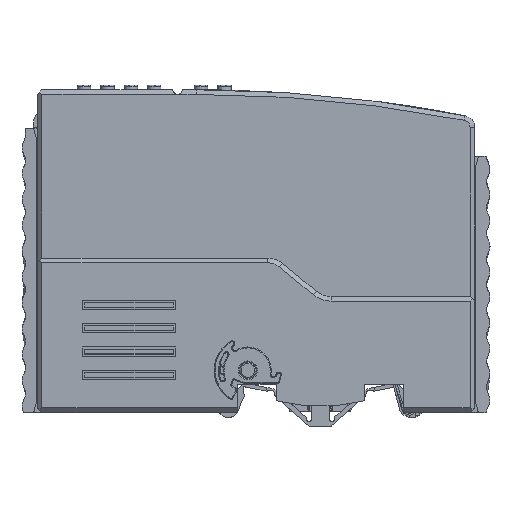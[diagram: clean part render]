
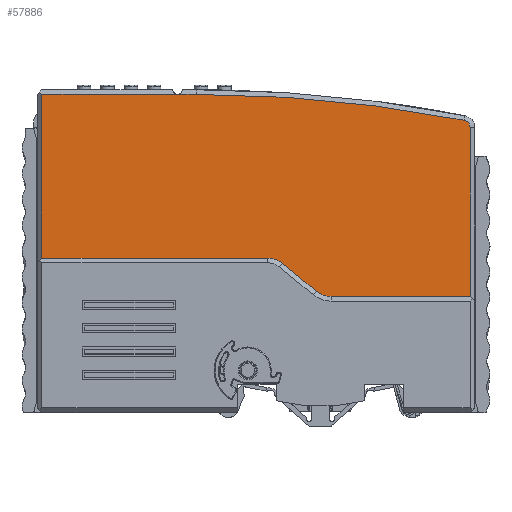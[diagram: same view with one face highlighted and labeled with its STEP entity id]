
A CAD part, top view. The second image highlights one B-rep face of the part: STEP entity #57886.
In plain terms, the highlighted planar face has unit normal (0, 0, 1).
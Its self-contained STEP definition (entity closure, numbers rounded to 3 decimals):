
#3871=DIRECTION('',(0.,1.,0.));
#3872=VECTOR('',#3871,35.);
#3873=CARTESIAN_POINT('',(1.,33.,-20.));
#3874=LINE('',#3873,#3872);
#3883=DIRECTION('',(-1.,0.,0.));
#3884=VECTOR('',#3883,16.9);
#3885=CARTESIAN_POINT('',(48.5,31.4,-20.));
#3886=LINE('',#3885,#3884);
#3887=DIRECTION('',(1.,0.,0.));
#3888=VECTOR('',#3887,2.4);
#3889=CARTESIAN_POINT('',(29.2,33.,-20.));
#3890=LINE('',#3889,#3888);
#3891=DIRECTION('',(-1.,0.,0.));
#3892=VECTOR('',#3891,16.9);
#3893=CARTESIAN_POINT('',(29.2,31.4,-20.));
#3894=LINE('',#3893,#3892);
#3895=DIRECTION('',(1.,0.,0.));
#3896=VECTOR('',#3895,11.3);
#3897=CARTESIAN_POINT('',(1.,33.,-20.));
#3898=LINE('',#3897,#3896);
#3899=CARTESIAN_POINT('',(34.,-231.,-20.));
#3900=DIRECTION('',(0.,0.,1.));
#3901=DIRECTION('',(0.191,0.982,0.));
#3902=AXIS2_PLACEMENT_3D('',#3899,#3900,#3901);
#3904=CARTESIAN_POINT('',(90.9,60.906,-20.));
#3905=DIRECTION('',(0.,0.,1.));
#3906=DIRECTION('',(1.,0.,0.));
#3907=AXIS2_PLACEMENT_3D('',#3904,#3905,#3906);
#3909=CARTESIAN_POINT('',(62.788,29.8,-20.));
#3910=DIRECTION('',(0.,0.,1.));
#3911=DIRECTION('',(-0.634,-0.773,0.));
#3912=AXIS2_PLACEMENT_3D('',#3909,#3910,#3911);
#3914=DIRECTION('',(0.773,-0.634,0.));
#3915=VECTOR('',#3914,9.356);
#3916=CARTESIAN_POINT('',(52.383,31.866,-20.));
#3917=LINE('',#3916,#3915);
#3918=CARTESIAN_POINT('',(49.212,28.,-20.));
#3919=DIRECTION('',(0.,0.,-1.));
#3920=DIRECTION('',(0.,1.,0.));
#3921=AXIS2_PLACEMENT_3D('',#3918,#3919,#3920);
#3923=DIRECTION('',(1.,0.,0.));
#3924=VECTOR('',#3923,0.712);
#3925=CARTESIAN_POINT('',(48.5,33.,-20.));
#3926=LINE('',#3925,#3924);
#3927=DIRECTION('',(1.,0.,0.));
#3928=VECTOR('',#3927,1.5);
#3929=CARTESIAN_POINT('',(39.3,32.3,-20.));
#3930=LINE('',#3929,#3928);
#3935=DIRECTION('',(0.,-1.,0.));
#3936=VECTOR('',#3935,0.1);
#3937=CARTESIAN_POINT('',(39.3,32.4,-20.));
#3938=LINE('',#3937,#3936);
#3971=DIRECTION('',(0.,-1.,0.));
#3972=VECTOR('',#3971,1.6);
#3973=CARTESIAN_POINT('',(48.5,33.,-20.));
#3974=LINE('',#3973,#3972);
#4055=DIRECTION('',(1.,0.,0.));
#4056=VECTOR('',#4055,1.5);
#4057=CARTESIAN_POINT('',(39.3,32.4,-20.));
#4058=LINE('',#4057,#4056);
#4083=DIRECTION('',(0.,1.,0.));
#4084=VECTOR('',#4083,0.1);
#4085=CARTESIAN_POINT('',(40.8,32.3,-20.));
#4086=LINE('',#4085,#4084);
#4183=DIRECTION('',(0.,-1.,0.));
#4184=VECTOR('',#4183,1.6);
#4185=CARTESIAN_POINT('',(12.3,33.,-20.));
#4186=LINE('',#4185,#4184);
#4203=DIRECTION('',(0.,-1.,0.));
#4204=VECTOR('',#4203,1.6);
#4205=CARTESIAN_POINT('',(29.2,33.,-20.));
#4206=LINE('',#4205,#4204);
#4219=DIRECTION('',(0.,1.,0.));
#4220=VECTOR('',#4219,1.6);
#4221=CARTESIAN_POINT('',(31.6,31.4,-20.));
#4222=LINE('',#4221,#4220);
#4408=DIRECTION('',(1.,0.,0.));
#4409=VECTOR('',#4408,29.712);
#4410=CARTESIAN_POINT('',(62.788,24.8,-20.));
#4411=LINE('',#4410,#4409);
#4464=DIRECTION('',(0.,-1.,0.));
#4465=VECTOR('',#4464,36.106);
#4466=CARTESIAN_POINT('',(92.5,60.906,-20.));
#4467=LINE('',#4466,#4465);
#26304=DIRECTION('',(1.,0.,0.));
#26305=VECTOR('',#26304,4.);
#26306=CARTESIAN_POINT('',(30.,68.,-20.));
#26307=LINE('',#26306,#26305);
#27518=DIRECTION('',(1.,0.,0.));
#27519=VECTOR('',#27518,29.);
#27520=CARTESIAN_POINT('',(1.,68.,-20.));
#27521=LINE('',#27520,#27519);
#41449=CARTESIAN_POINT('',(1.,33.,-20.));
#41450=VERTEX_POINT('',#41449);
#41795=CARTESIAN_POINT('',(49.212,33.,-20.));
#41796=VERTEX_POINT('',#41795);
#41797=CARTESIAN_POINT('',(52.383,31.866,-20.));
#41798=VERTEX_POINT('',#41797);
#41799=CARTESIAN_POINT('',(48.5,33.,-20.));
#41800=VERTEX_POINT('',#41799);
#41805=CARTESIAN_POINT('',(31.6,33.,-20.));
#41806=VERTEX_POINT('',#41805);
#41807=CARTESIAN_POINT('',(29.2,33.,-20.));
#41808=VERTEX_POINT('',#41807);
#41813=CARTESIAN_POINT('',(12.3,33.,-20.));
#41814=VERTEX_POINT('',#41813);
#41815=CARTESIAN_POINT('',(30.,68.,-20.));
#41816=CARTESIAN_POINT('',(34.,68.,-20.));
#41817=VERTEX_POINT('',#41815);
#41818=VERTEX_POINT('',#41816);
#41819=CARTESIAN_POINT('',(91.206,62.477,-20.));
#41820=VERTEX_POINT('',#41819);
#41821=CARTESIAN_POINT('',(92.5,60.906,-20.));
#41822=VERTEX_POINT('',#41821);
#41823=CARTESIAN_POINT('',(92.5,24.8,
-20.));
#41824=VERTEX_POINT('',#41823);
#41825=CARTESIAN_POINT('',(62.788,24.8,-20.));
#41826=VERTEX_POINT('',#41825);
#41827=CARTESIAN_POINT('',(59.617,25.934,-20.));
#41828=VERTEX_POINT('',#41827);
#41829=CARTESIAN_POINT('',(1.,68.,-20.));
#41830=VERTEX_POINT('',#41829);
#41831=CARTESIAN_POINT('',(39.3,32.3,-20.));
#41832=CARTESIAN_POINT('',(40.8,32.3,-20.));
#41833=VERTEX_POINT('',#41831);
#41834=VERTEX_POINT('',#41832);
#41835=CARTESIAN_POINT('',(40.8,32.4,-20.));
#41836=VERTEX_POINT('',#41835);
#41837=CARTESIAN_POINT('',(39.3,32.4,-20.));
#41838=VERTEX_POINT('',#41837);
#49755=CARTESIAN_POINT('',(48.5,31.4,-20.));
#49756=CARTESIAN_POINT('',(31.6,31.4,-20.));
#49757=VERTEX_POINT('',#49755);
#49758=VERTEX_POINT('',#49756);
#49759=CARTESIAN_POINT('',(29.2,31.4,-20.));
#49760=CARTESIAN_POINT('',(12.3,31.4,-20.));
#49761=VERTEX_POINT('',#49759);
#49762=VERTEX_POINT('',#49760);
#57832=CARTESIAN_POINT('',(46.75,46.4,-20.));
#57833=DIRECTION('',(0.,0.,1.));
#57834=DIRECTION('',(1.,0.,0.));
#57835=AXIS2_PLACEMENT_3D('',#57832,#57833,#57834);
#57836=PLANE('',#57835);
#57838=ORIENTED_EDGE('',*,*,#57837,.T.);
#57840=ORIENTED_EDGE('',*,*,#57839,.T.);
#57842=ORIENTED_EDGE('',*,*,#57841,.F.);
#57844=ORIENTED_EDGE('',*,*,#57843,.T.);
#57846=ORIENTED_EDGE('',*,*,#57845,.T.);
#57848=ORIENTED_EDGE('',*,*,#57847,.F.);
#57850=ORIENTED_EDGE('',*,*,#57849,.F.);
#57851=ORIENTED_EDGE('',*,*,#57821,.T.);
#57853=ORIENTED_EDGE('',*,*,#57852,.T.);
#57855=ORIENTED_EDGE('',*,*,#57854,.T.);
#57857=ORIENTED_EDGE('',*,*,#57856,.F.);
#57859=ORIENTED_EDGE('',*,*,#57858,.F.);
#57861=ORIENTED_EDGE('',*,*,#57860,.T.);
#57863=ORIENTED_EDGE('',*,*,#57862,.F.);
#57865=ORIENTED_EDGE('',*,*,#57864,.F.);
#57867=ORIENTED_EDGE('',*,*,#57866,.F.);
#57869=ORIENTED_EDGE('',*,*,#57868,.F.);
#57871=ORIENTED_EDGE('',*,*,#57870,.F.);
#57873=ORIENTED_EDGE('',*,*,#57872,.T.);
#57874=EDGE_LOOP('',(#57838,#57840,#57842,#57844,#57846,#57848,#57850,#57851,
#57853,#57855,#57857,#57859,#57861,#57863,#57865,#57867,#57869,#57871,#57873));
#57875=FACE_OUTER_BOUND('',#57874,.F.);
#57877=ORIENTED_EDGE('',*,*,#57876,.T.);
#57879=ORIENTED_EDGE('',*,*,#57878,.T.);
#57881=ORIENTED_EDGE('',*,*,#57880,.F.);
#57883=ORIENTED_EDGE('',*,*,#57882,.T.);
#57884=EDGE_LOOP('',(#57877,#57879,#57881,#57883));
#57885=FACE_BOUND('',#57884,.F.);
#3903=CIRCLE('',#3902,299.);
#3908=CIRCLE('',#3907,1.6);
#3913=CIRCLE('',#3912,5.);
#3922=CIRCLE('',#3921,5.);
#57821=EDGE_CURVE('',#41450,#41830,#3874,.T.);
#57837=EDGE_CURVE('',#49757,#49758,#3886,.T.);
#57839=EDGE_CURVE('',#49758,#41806,#4222,.T.);
#57841=EDGE_CURVE('',#41808,#41806,#3890,.T.);
#57843=EDGE_CURVE('',#41808,#49761,#4206,.T.);
#57845=EDGE_CURVE('',#49761,#49762,#3894,.T.);
#57847=EDGE_CURVE('',#41814,#49762,#4186,.T.);
#57849=EDGE_CURVE('',#41450,#41814,#3898,.T.);
#57852=EDGE_CURVE('',#41830,#41817,#27521,.T.);
#57854=EDGE_CURVE('',#41817,#41818,#26307,.T.);
#57856=EDGE_CURVE('',#41820,#41818,#3903,.T.);
#57858=EDGE_CURVE('',#41822,#41820,#3908,.T.);
#57860=EDGE_CURVE('',#41822,#41824,#4467,.T.);
#57862=EDGE_CURVE('',#41826,#41824,#4411,.T.);
#57864=EDGE_CURVE('',#41828,#41826,#3913,.T.);
#57866=EDGE_CURVE('',#41798,#41828,#3917,.T.);
#57868=EDGE_CURVE('',#41796,#41798,#3922,.T.);
#57870=EDGE_CURVE('',#41800,#41796,#3926,.T.);
#57872=EDGE_CURVE('',#41800,#49757,#3974,.T.);
#57876=EDGE_CURVE('',#41833,#41834,#3930,.T.);
#57878=EDGE_CURVE('',#41834,#41836,#4086,.T.);
#57880=EDGE_CURVE('',#41838,#41836,#4058,.T.);
#57882=EDGE_CURVE('',#41838,#41833,#3938,.T.);
#57886=ADVANCED_FACE('',(#57875,#57885),#57836,.T.);
